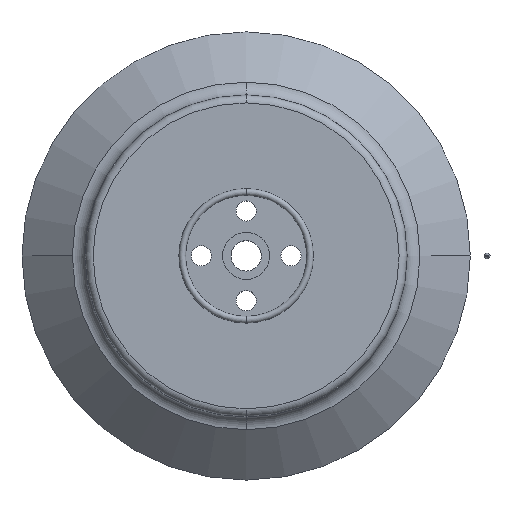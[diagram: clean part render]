
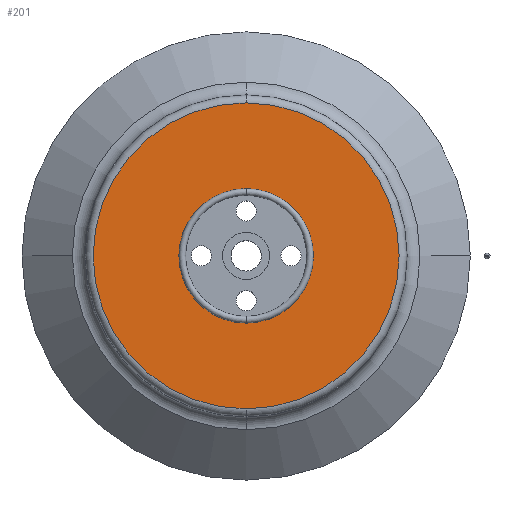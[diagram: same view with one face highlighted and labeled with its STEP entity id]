
A CAD part, top view. The second image highlights one B-rep face of the part: STEP entity #201.
In plain terms, the highlighted planar face has unit normal (0, 0, 1).
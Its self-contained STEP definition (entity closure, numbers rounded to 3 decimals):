
#201=ADVANCED_FACE('',(#425,#426),#427,.T.);
#425=FACE_OUTER_BOUND('',#667,.T.);
#426=FACE_BOUND('',#668,.T.);
#427=PLANE('',#669);
#667=EDGE_LOOP('',(#1174,#1175));
#668=EDGE_LOOP('',(#1176,#1177));
#669=AXIS2_PLACEMENT_3D('',#1178,#1179,#1180);
#1174=ORIENTED_EDGE('',*,*,#1465,.F.);
#1175=ORIENTED_EDGE('',*,*,#1556,.F.);
#1176=ORIENTED_EDGE('',*,*,#1554,.T.);
#1177=ORIENTED_EDGE('',*,*,#1472,.T.);
#1178=CARTESIAN_POINT('',(49.125,0.,36.0));
#1179=DIRECTION('',(0.0,0.,1.0));
#1180=DIRECTION('',(1.0,-0.0,0.0));
#1465=EDGE_CURVE('',#1769,#1772,#1773,.T.);
#1472=EDGE_CURVE('',#1778,#1782,#1784,.T.);
#1554=EDGE_CURVE('',#1782,#1778,#1902,.T.);
#1556=EDGE_CURVE('',#1772,#1769,#1904,.T.);
#1769=VERTEX_POINT('',#2139);
#1772=VERTEX_POINT('',#2142);
#1773=CIRCLE('',#2143,68.25);
#1778=VERTEX_POINT('',#2148);
#1782=VERTEX_POINT('',#2152);
#1784=CIRCLE('',#2154,30.0);
#1902=CIRCLE('',#2290,30.0);
#1904=CIRCLE('',#2292,68.25);
#2139=CARTESIAN_POINT('',(0.,68.25,36.0));
#2142=CARTESIAN_POINT('',(0.,-68.25,36.0));
#2143=AXIS2_PLACEMENT_3D('',#2546,#2547,#2548);
#2148=CARTESIAN_POINT('',(0.,30.0,36.0));
#2152=CARTESIAN_POINT('',(0.,-30.0,36.0));
#2154=AXIS2_PLACEMENT_3D('',#2564,#2565,#2566);
#2290=AXIS2_PLACEMENT_3D('',#2699,#2700,#2701);
#2292=AXIS2_PLACEMENT_3D('',#2702,#2703,#2704);
#2546=CARTESIAN_POINT('',(0.0,0.,36.0));
#2547=DIRECTION('',(0.0,0.,-1.0));
#2548=DIRECTION('',(1.0,0.0,0.0));
#2564=CARTESIAN_POINT('',(0.0,0.,36.0));
#2565=DIRECTION('',(0.0,0.,-1.0));
#2566=DIRECTION('',(1.0,0.0,0.0));
#2699=CARTESIAN_POINT('',(0.0,0.,36.0));
#2700=DIRECTION('',(0.0,0.,-1.0));
#2701=DIRECTION('',(1.0,0.0,0.0));
#2702=CARTESIAN_POINT('',(0.0,0.,36.0));
#2703=DIRECTION('',(0.0,0.,-1.0));
#2704=DIRECTION('',(1.0,0.0,0.0));
